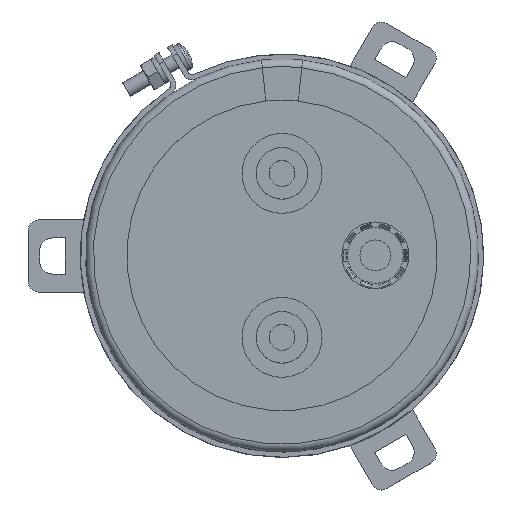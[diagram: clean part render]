
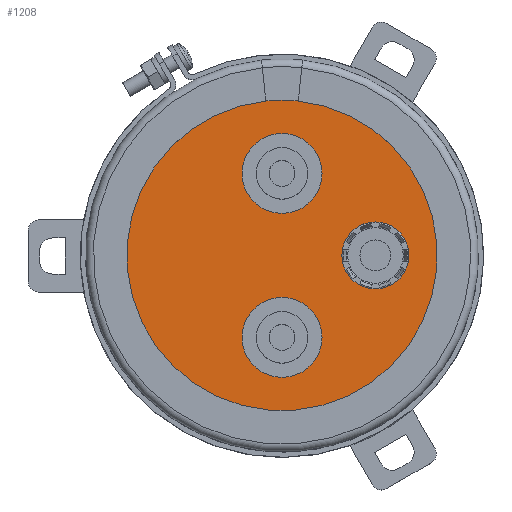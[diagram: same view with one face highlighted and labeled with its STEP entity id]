
A CAD part, top view. The second image highlights one B-rep face of the part: STEP entity #1208.
In plain terms, the highlighted planar face has unit normal (0, 0, 1).
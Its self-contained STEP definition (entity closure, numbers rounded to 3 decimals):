
#172=FACE_BOUND('',#1721,.T.);
#173=FACE_BOUND('',#1722,.T.);
#174=FACE_BOUND('',#1723,.T.);
#175=FACE_BOUND('',#1724,.T.);
#584=PLANE('',#4594);
#1208=ADVANCED_FACE('',(#172,#173,#174,#175),#584,.F.);
#1721=EDGE_LOOP('',(#2136));
#1722=EDGE_LOOP('',(#2137));
#1723=EDGE_LOOP('',(#2138));
#1724=EDGE_LOOP('',(#2139));
#2136=ORIENTED_EDGE('',*,*,#3696,.F.);
#2137=ORIENTED_EDGE('',*,*,#3697,.T.);
#2138=ORIENTED_EDGE('',*,*,#3698,.F.);
#2139=ORIENTED_EDGE('',*,*,#3699,.F.);
#3268=VERTEX_POINT('',#6491);
#3269=VERTEX_POINT('',#6493);
#3270=VERTEX_POINT('',#6495);
#3271=VERTEX_POINT('',#6497);
#3696=EDGE_CURVE('',#3268,#3268,#4283,.T.);
#3697=EDGE_CURVE('',#3269,#3269,#4284,.T.);
#3698=EDGE_CURVE('',#3270,#3270,#4285,.T.);
#3699=EDGE_CURVE('',#3271,#3271,#4286,.T.);
#4283=CIRCLE('',#4590,6.5);
#4284=CIRCLE('',#4591,7.75);
#4285=CIRCLE('',#4592,7.75);
#4286=CIRCLE('',#4593,36.6);
#4590=AXIS2_PLACEMENT_3D('',#6490,#5220,#5221);
#4591=AXIS2_PLACEMENT_3D('',#6492,#5222,#5223);
#4592=AXIS2_PLACEMENT_3D('',#6494,#5224,#5225);
#4593=AXIS2_PLACEMENT_3D('',#6496,#5226,#5227);
#4594=AXIS2_PLACEMENT_3D('',#6498,#5228,#5229);
#5220=DIRECTION('',(0.,0.,1.));
#5221=DIRECTION('',(0.,-1.,0.));
#5222=DIRECTION('',(0.,0.,-1.));
#5223=DIRECTION('',(0.,-1.,0.));
#5224=DIRECTION('',(0.,0.,1.));
#5225=DIRECTION('',(0.,-1.,0.));
#5226=DIRECTION('',(0.,0.,-1.));
#5227=DIRECTION('',(0.,1.,0.));
#5228=DIRECTION('',(0.,0.,-1.));
#5229=DIRECTION('',(0.,1.,0.));
#6490=CARTESIAN_POINT('',(18.1,0.,64.4));
#6491=CARTESIAN_POINT('',(18.1,-6.5,64.4));
#6492=CARTESIAN_POINT('',(0.,15.9,64.4));
#6493=CARTESIAN_POINT('',(0.,8.15,64.4));
#6494=CARTESIAN_POINT('',(0.,-15.9,64.4));
#6495=CARTESIAN_POINT('',(0.,-23.65,64.4));
#6496=CARTESIAN_POINT('',(0.,0.,64.4));
#6497=CARTESIAN_POINT('',(0.,36.6,64.4));
#6498=CARTESIAN_POINT('',(0.,0.,64.4));
